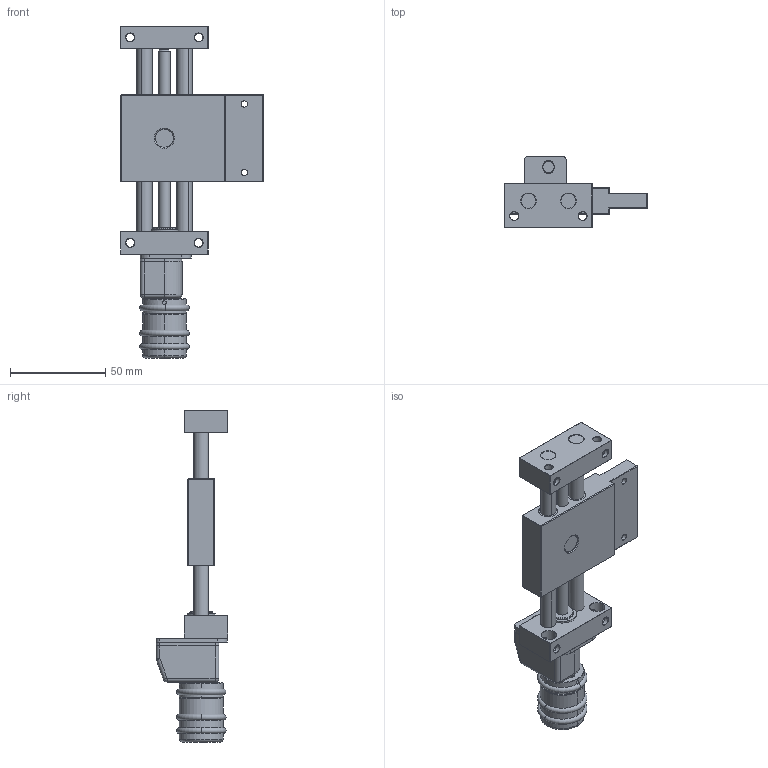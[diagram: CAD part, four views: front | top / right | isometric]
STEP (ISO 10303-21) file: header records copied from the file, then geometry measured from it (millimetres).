
FILE_DESCRIPTION (( 'STEP AP203' ), '1' );
FILE_NAME ('KT4808-KL-PA-Kreuztisch.STEP', '2016-01-15T17:00:48', ( '' ), ( '' ), 'SwSTEP 2.0', 'SolidWorks 2014', '' );
FILE_SCHEMA (( 'CONFIG_CONTROL_DESIGN' ));
Length unit declared in the file: millimetre
Products named in the file (4): PT4808-000-01-Festteil-PA(E)_n_Standard; PA0812-PTHT-000-Positionsanzeiger-komplett_n_Standard; KT08-000-02-K-Schlitten-komplett; KT4808-KL-PA-Kreuztisch
Assembly tree (3 placements, depth 2):
  KT4808-KL-PA-Kreuztisch
    PT4808-000-01-Festteil-PA(E)_n_Standard
    PA0812-PTHT-000-Positionsanzeiger-komplett_n_Standard
    KT08-000-02-K-Schlitten-komplett
Bounding box: 75 x 37.7 x 174.53 mm (x, y, z)
Volume: 94726.7 mm3; surface area: 41516.5 mm2
Topology: 5 solids, 5 shells, 536 faces, 1284 edges, 799 vertices
Faces by surface type: plane 210, cylinder 180, cone 118, torus 15, sphere 7, bspline 6
Entity records: 17221 total; most frequent: CARTESIAN_POINT 3965, DIRECTION 2841, ORIENTED_EDGE 2550, EDGE_CURVE 1275, AXIS2_PLACEMENT_3D 1089, VERTEX_POINT 799, LINE 663, VECTOR 663
